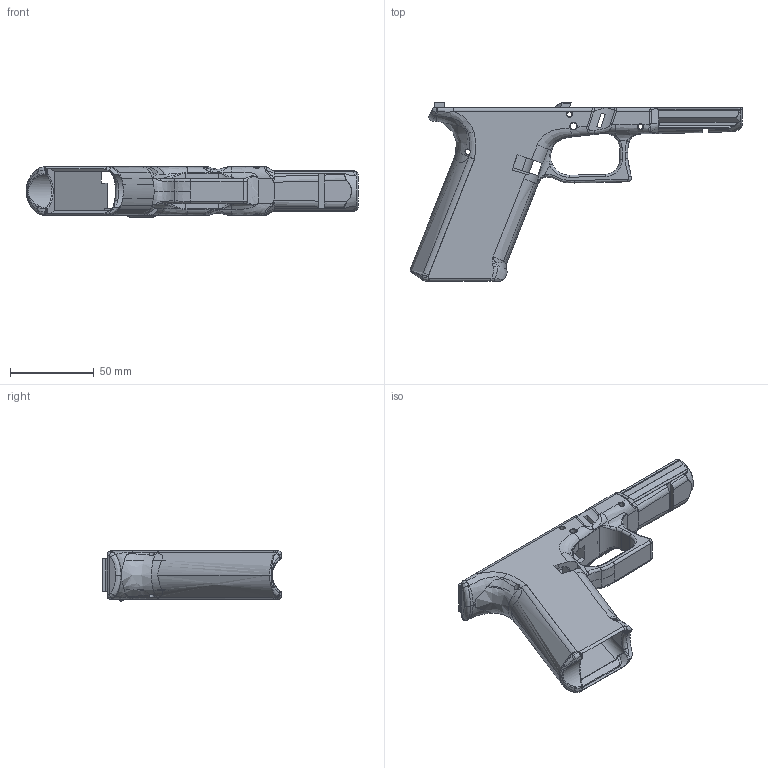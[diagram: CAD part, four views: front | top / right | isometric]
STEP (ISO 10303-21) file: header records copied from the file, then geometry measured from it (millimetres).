
FILE_DESCRIPTION(/* description */ (''),/* implementation_level */ '2;1');
FILE_NAME(/* name */ 'D:\~~GatCad\FMDA DD17.2\STEP\FMDA DD17.2 V1.4 G5Spring Frame.stp',/* time_stamp */ '2021-01-20T14:58:52-06:00',/* author */ ('johne'),/* organization */ (''),/* preprocessor_version */ 'ST-DEVELOPER v18',/* originating_system */ 'Autodesk Inventor 2020',/* authorisation */ '');
FILE_SCHEMA (('AUTOMOTIVE_DESIGN { 1 0 10303 214 3 1 1 }'));
Products named in the file (1): FMDA DD17.2 V1.4 Frame
Bounding box: 197.63 x 106.5 x 29.84 mm (x, y, z)
Volume: 86215.3 mm3; surface area: 46976.6 mm2
Topology: 1 solids, 3 shells, 631 faces, 1833 edges, 1176 vertices
Faces by surface type: bspline 289, plane 178, cylinder 121, torus 21, cone 12, sphere 10
Full cylindrical faces by diameter (mm): 2 x1, 3 x4, 3.2 x2, 3.81 x1, 4 x2
Entity records: 51301 total; most frequent: CARTESIAN_POINT 36483, ORIENTED_EDGE 3642, DIRECTION 2400, EDGE_CURVE 1821, VERTEX_POINT 1177, AXIS2_PLACEMENT_3D 875, LINE 650, VECTOR 650
